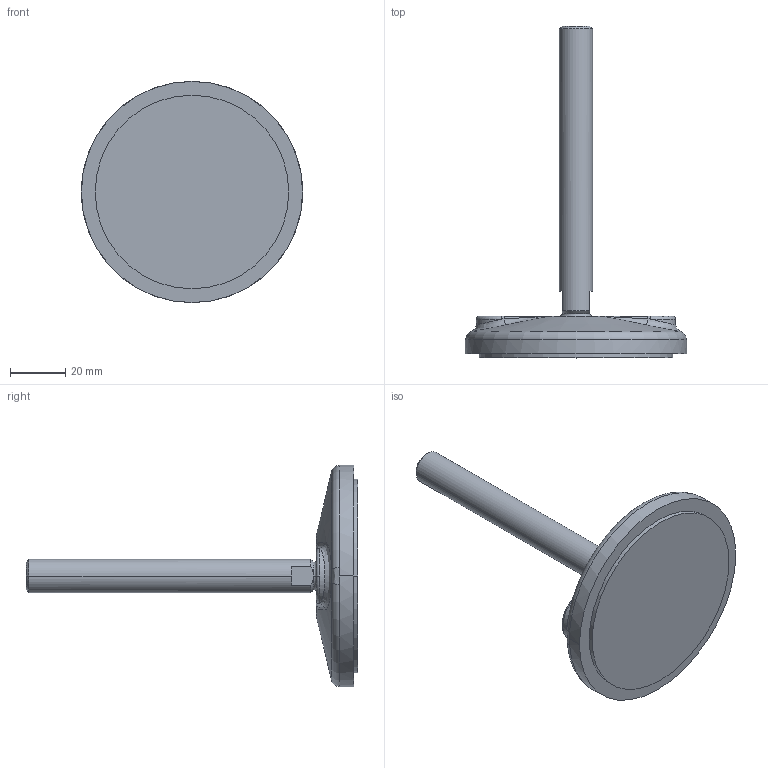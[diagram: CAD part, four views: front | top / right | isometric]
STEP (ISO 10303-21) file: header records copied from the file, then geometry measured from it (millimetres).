
FILE_DESCRIPTION (( 'STEP AP203' ), '1' );
FILE_NAME ('J534891 Adjustable foot M12x122 d80 SS (01-06-2021).STEP', '2021-06-01T06:28:35', ( '' ), ( '' ), 'SwSTEP 2.0', 'SolidWorks 2020', '' );
FILE_SCHEMA (( 'CONFIG_CONTROL_DESIGN' ));
Length unit declared in the file: millimetre
Products named in the file (1): J534891 Adjustable foot M12x122 d80 SS (01-06-2021)
Bounding box: 80 x 120 x 80 mm (x, y, z)
Volume: 72132.2 mm3; surface area: 16390.7 mm2
Topology: 1 solids, 1 shells, 48 faces, 110 edges, 66 vertices
Faces by surface type: bspline 16, torus 9, cylinder 9, plane 8, cone 6
Entity records: 2320 total; most frequent: CARTESIAN_POINT 1250, ORIENTED_EDGE 220, DIRECTION 197, EDGE_CURVE 110, AXIS2_PLACEMENT_3D 91, VERTEX_POINT 66, CIRCLE 58, EDGE_LOOP 50
